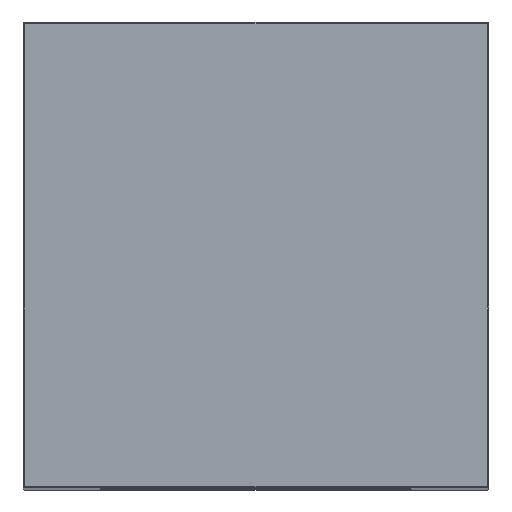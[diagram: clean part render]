
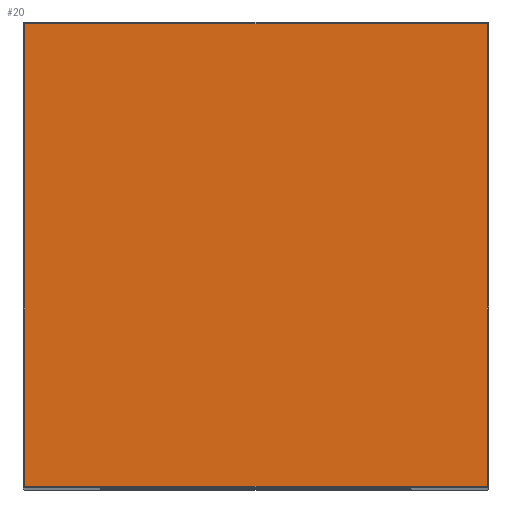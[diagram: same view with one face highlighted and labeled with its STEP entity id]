
A CAD part, top view. The second image highlights one B-rep face of the part: STEP entity #20.
In plain terms, the highlighted planar face has unit normal (0, 0, 1).
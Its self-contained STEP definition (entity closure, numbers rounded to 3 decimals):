
#20=ADVANCED_FACE('',(#150),#1666,.T.);
#150=FACE_OUTER_BOUND('',#278,.T.);
#278=EDGE_LOOP('',(#437,#438,#439,#440));
#437=ORIENTED_EDGE('',*,*,#941,.T.);
#438=ORIENTED_EDGE('',*,*,#943,.T.);
#439=ORIENTED_EDGE('',*,*,#944,.T.);
#440=ORIENTED_EDGE('',*,*,#942,.T.);
#941=EDGE_CURVE('',#1461,#1462,#1333,.T.);
#942=EDGE_CURVE('',#1463,#1461,#1334,.T.);
#943=EDGE_CURVE('',#1462,#1464,#1335,.T.);
#944=EDGE_CURVE('',#1464,#1463,#1336,.T.);
#1333=B_SPLINE_CURVE_WITH_KNOTS('',1,(#2943,#2944),.UNSPECIFIED.,.F.,.F.,
(2,2),(1.,299.),.UNSPECIFIED.);
#1334=B_SPLINE_CURVE_WITH_KNOTS('',1,(#2945,#2946),.UNSPECIFIED.,.F.,.F.,
(2,2),(1.,299.),.UNSPECIFIED.);
#1335=B_SPLINE_CURVE_WITH_KNOTS('',1,(#2947,#2948),.UNSPECIFIED.,.F.,.F.,
(2,2),(1.,299.),.UNSPECIFIED.);
#1336=B_SPLINE_CURVE_WITH_KNOTS('',1,(#2949,#2950),.UNSPECIFIED.,.F.,.F.,
(2,2),(1.,299.),.UNSPECIFIED.);
#1461=VERTEX_POINT('',#2787);
#1462=VERTEX_POINT('',#2788);
#1463=VERTEX_POINT('',#2789);
#1464=VERTEX_POINT('',#2790);
#1666=PLANE('',#1712);
#1712=AXIS2_PLACEMENT_3D('',#1770,#1741,$);
#1741=DIRECTION('',(0.,0.,1.));
#1770=CARTESIAN_POINT('',(518.707,-208.12,800.));
#2787=CARTESIAN_POINT('',(519.707,90.88,800.));
#2788=CARTESIAN_POINT('',(519.707,-207.12,800.));
#2789=CARTESIAN_POINT('',(817.707,90.88,800.));
#2790=CARTESIAN_POINT('',(817.707,-207.12,800.));
#2943=CARTESIAN_POINT('',(519.707,90.88,800.));
#2944=CARTESIAN_POINT('',(519.707,-207.12,800.));
#2945=CARTESIAN_POINT('',(817.707,90.88,800.));
#2946=CARTESIAN_POINT('',(519.707,90.88,800.));
#2947=CARTESIAN_POINT('',(519.707,-207.12,800.));
#2948=CARTESIAN_POINT('',(817.707,-207.12,800.));
#2949=CARTESIAN_POINT('',(817.707,-207.12,800.));
#2950=CARTESIAN_POINT('',(817.707,90.88,800.));
